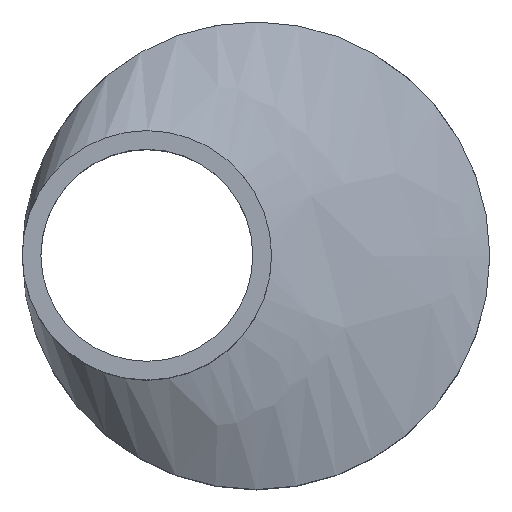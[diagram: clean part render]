
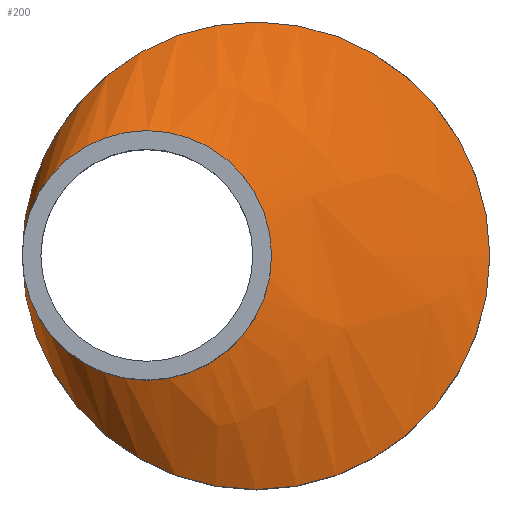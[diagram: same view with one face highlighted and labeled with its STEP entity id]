
A CAD part, top view. The second image highlights one B-rep face of the part: STEP entity #200.
In plain terms, the highlighted free-form (B-spline) face has degree [1, 2] with [2, 9] control points.
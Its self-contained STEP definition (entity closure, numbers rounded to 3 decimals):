
#15=B_SPLINE_CURVE_WITH_KNOTS($,1,(#381,#382),.UNSPECIFIED.,.F.,.F.,(2,
2),(-0.585,0.),.UNSPECIFIED.);
#17=(
BOUNDED_SURFACE()
B_SPLINE_SURFACE(1,2,((#359,#360,#361,#362,#363,#364,#365,#366,#367),(#368,
#369,#370,#371,#372,#373,#374,#375,#376)),.UNSPECIFIED.,.F.,.T.,.F.)
B_SPLINE_SURFACE_WITH_KNOTS((2,2),(3,2,2,2,3),(-2.188,0.853),
(-3.142,-1.571,0.,1.571,3.142),
 .UNSPECIFIED.)
GEOMETRIC_REPRESENTATION_ITEM()
RATIONAL_B_SPLINE_SURFACE(((1.,0.707,1.,0.707,1.,
0.707,1.,0.707,1.),(1.,0.707,1.,0.707,
1.,0.707,1.,0.707,1.)))
REPRESENTATION_ITEM($)
SURFACE()
);
#47=FACE_OUTER_BOUND($,#67,.T.);
#67=EDGE_LOOP($,(#157,#158,#159,#160,#161,#162));
#83=CIRCLE($,#221,37.5);
#84=CIRCLE($,#222,37.5);
#91=CIRCLE($,#231,20.);
#92=CIRCLE($,#232,20.);
#101=VERTEX_POINT($,#321);
#102=VERTEX_POINT($,#322);
#109=VERTEX_POINT($,#377);
#110=VERTEX_POINT($,#378);
#119=EDGE_CURVE($,#101,#102,#83,.T.);
#120=EDGE_CURVE($,#102,#101,#84,.T.);
#128=EDGE_CURVE($,#109,#110,#91,.T.);
#129=EDGE_CURVE($,#110,#109,#92,.T.);
#130=EDGE_CURVE($,#110,#102,#15,.T.);
#157=ORIENTED_EDGE($,*,*,#128,.F.);
#158=ORIENTED_EDGE($,*,*,#129,.F.);
#159=ORIENTED_EDGE($,*,*,#130,.T.);
#160=ORIENTED_EDGE($,*,*,#119,.F.);
#161=ORIENTED_EDGE($,*,*,#120,.F.);
#162=ORIENTED_EDGE($,*,*,#130,.F.);
#200=ADVANCED_FACE($,(#47),#17,.F.);
#221=AXIS2_PLACEMENT_3D($,#323,#266,#267);
#222=AXIS2_PLACEMENT_3D($,#324,#268,#269);
#231=AXIS2_PLACEMENT_3D($,#379,#286,#287);
#232=AXIS2_PLACEMENT_3D($,#380,#288,#289);
#266=DIRECTION('center_axis',(0.,0.,-1.));
#267=DIRECTION('ref_axis',(-1.,0.,0.));
#268=DIRECTION('center_axis',(0.,0.,-1.));
#269=DIRECTION('ref_axis',(-1.,0.,0.));
#286=DIRECTION('center_axis',(0.,0.,1.));
#287=DIRECTION('ref_axis',(-1.,0.,0.));
#288=DIRECTION('center_axis',(0.,0.,1.));
#289=DIRECTION('ref_axis',(-1.,0.,0.));
#321=CARTESIAN_POINT('',(37.5,0.,37.));
#322=CARTESIAN_POINT('',(-23.833,28.952,37.));
#323=CARTESIAN_POINT('Origin',(0.,0.,37.));
#324=CARTESIAN_POINT('Origin',(0.,0.,37.));
#359=CARTESIAN_POINT('Ctrl Pts',(0.,79.442,
7.104));
#360=CARTESIAN_POINT('Ctrl Pts',(-37.5,79.442,-22.791));
#361=CARTESIAN_POINT('Ctrl Pts',(-37.5,0.,-22.791));
#362=CARTESIAN_POINT('Ctrl Pts',(-37.5,-79.442,-22.791));
#363=CARTESIAN_POINT('Ctrl Pts',(0.,-79.442,
7.104));
#364=CARTESIAN_POINT('Ctrl Pts',(37.5,-79.442,37.));
#365=CARTESIAN_POINT('Ctrl Pts',(37.5,0.,37.));
#366=CARTESIAN_POINT('Ctrl Pts',(37.5,79.442,37.));
#367=CARTESIAN_POINT('Ctrl Pts',(0.,79.442,
7.104));
#368=CARTESIAN_POINT('Ctrl Pts',(-33.129,9.26,48.66));
#369=CARTESIAN_POINT('Ctrl Pts',(-37.5,9.26,45.176));
#370=CARTESIAN_POINT('Ctrl Pts',(-37.5,0.,45.176));
#371=CARTESIAN_POINT('Ctrl Pts',(-37.5,-9.26,45.176));
#372=CARTESIAN_POINT('Ctrl Pts',(-33.129,-9.26,48.66));
#373=CARTESIAN_POINT('Ctrl Pts',(-28.758,-9.26,52.145));
#374=CARTESIAN_POINT('Ctrl Pts',(-28.758,0.,
52.145));
#375=CARTESIAN_POINT('Ctrl Pts',(-28.758,9.26,52.145));
#376=CARTESIAN_POINT('Ctrl Pts',(-33.129,9.26,48.66));
#377=CARTESIAN_POINT('',(2.5,0.,45.));
#378=CARTESIAN_POINT('',(-30.211,15.441,45.));
#379=CARTESIAN_POINT('Origin',(-17.5,0.,45.));
#380=CARTESIAN_POINT('Origin',(-17.5,0.,45.));
#381=CARTESIAN_POINT('Ctrl Pts',(-30.211,15.441,45.));
#382=CARTESIAN_POINT('Ctrl Pts',(-23.833,28.952,37.));
